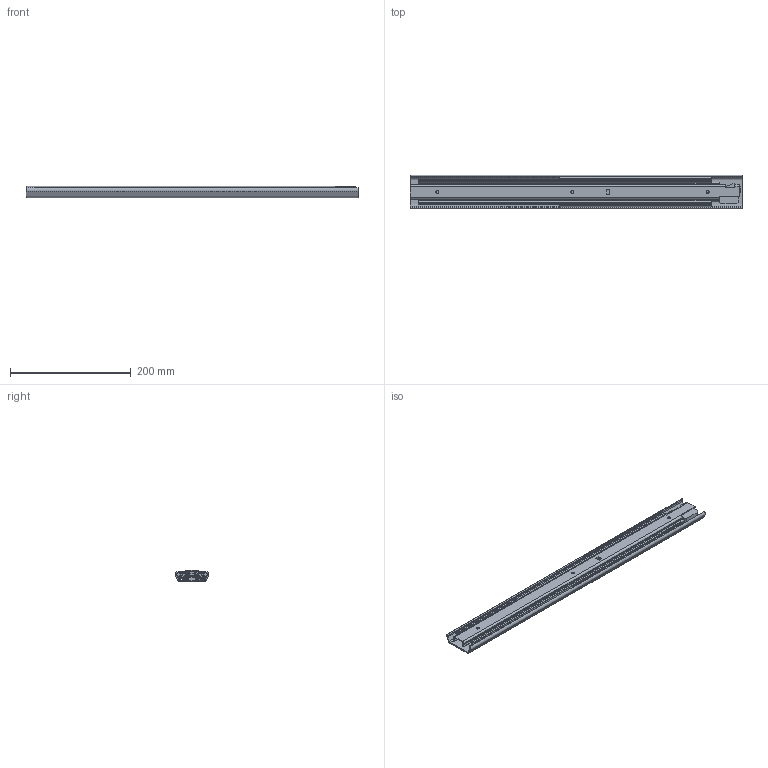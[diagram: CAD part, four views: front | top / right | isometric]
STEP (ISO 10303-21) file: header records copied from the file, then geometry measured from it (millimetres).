
FILE_DESCRIPTION( ( 'STEP AP203' ), '1' );
FILE_NAME( 'C:/Temp/Ganter_Step_05_03_2020/data/3_8/gn1422/Telescopic slide GN 1422-550-B-2-ZB (0).stp', '2020-03-12T15:26:06', ( 'License CC BY-ND 4.0' ), ( 'CADENAS' ), ' ', 'PARTsolutions', ' ' );
FILE_SCHEMA( ( 'CONFIG_CONTROL_DESIGN' ) );
Length unit declared in the file: millimetre
Products named in the file (4): Telescopic slide GN 1422-550-B-2-ZB (0); _Telescopic slide GN 1422-550-B-2-ZB (0)-1; _Telescopic slide GN 1422-550-B-2-ZB (0)-2; _Telescopic slide GN 1422-550-B-2-ZB (0)-3
Assembly tree (3 placements, depth 2):
  Telescopic slide GN 1422-550-B-2-ZB (0)
    _Telescopic slide GN 1422-550-B-2-ZB (0)-1
    _Telescopic slide GN 1422-550-B-2-ZB (0)-2
    _Telescopic slide GN 1422-550-B-2-ZB (0)-3
Bounding box: 550 x 55.78 x 18.5 mm (x, y, z)
Volume: 224183 mm3; surface area: 240120.3 mm2
Topology: 3 solids, 3 shells, 320 faces, 941 edges, 618 vertices
Faces by surface type: plane 190, cylinder 123, cone 7
Full cylindrical faces by diameter (mm): 5 x3, 6.5 x4, 11 x3
Entity records: 10840 total; most frequent: CARTESIAN_POINT 1980, ORIENTED_EDGE 1842, DIRECTION 1823, EDGE_CURVE 921, LINE 643, VECTOR 643, VERTEX_POINT 615, AXIS2_PLACEMENT_3D 590
